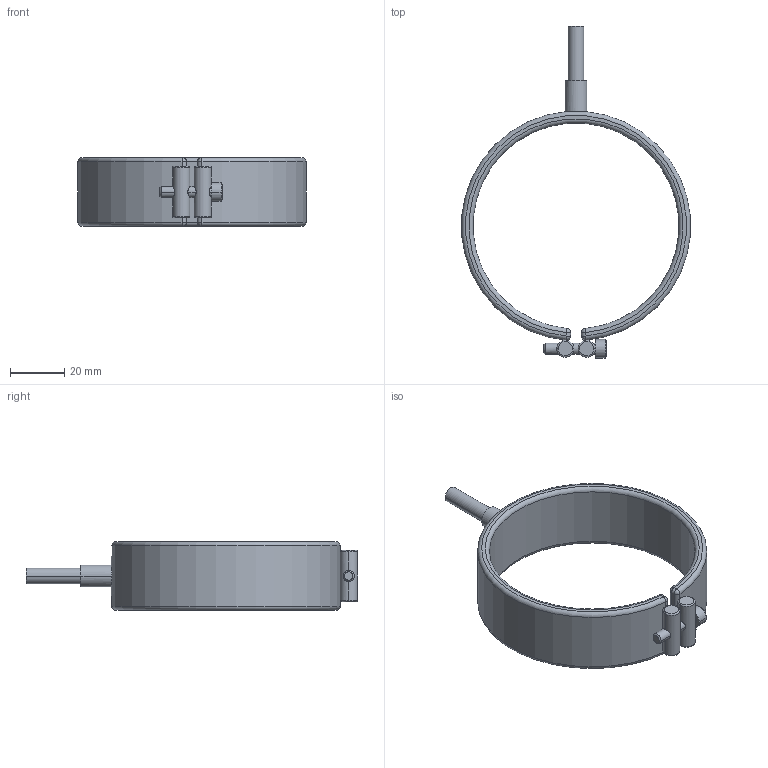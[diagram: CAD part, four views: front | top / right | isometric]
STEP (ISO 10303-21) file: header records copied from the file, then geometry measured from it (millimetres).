
FILE_DESCRIPTION((''),'2;1');
FILE_NAME('MSC-4154','2007-09-28T',('glafferty'),('Pleasant Precision, Inc. (419)675-0556'),'PRO/ENGINEER BY PARAMETRIC TECHNOLOGY CORPORATION, 2006080','PRO/ENGINEER BY PARAMETRIC TECHNOLOGY CORPORATION, 2006080','');
FILE_SCHEMA(('CONFIG_CONTROL_DESIGN'));
Length unit declared in the file: inch
Products named in the file (1): MSC-4154
Bounding box: 84.51 x 122.82 x 25.4 mm (x, y, z)
Volume: 29304.2 mm3; surface area: 16039.7 mm2
Topology: 2 solids, 2 shells, 71 faces, 149 edges, 86 vertices
Faces by surface type: cylinder 27, plane 20, torus 12, sphere 8, cone 4
Entity records: 2071 total; most frequent: CARTESIAN_POINT 495, DIRECTION 349, ORIENTED_EDGE 298, EDGE_CURVE 149, AXIS2_PLACEMENT_3D 146, VERTEX_POINT 86, EDGE_LOOP 75, CIRCLE 75
